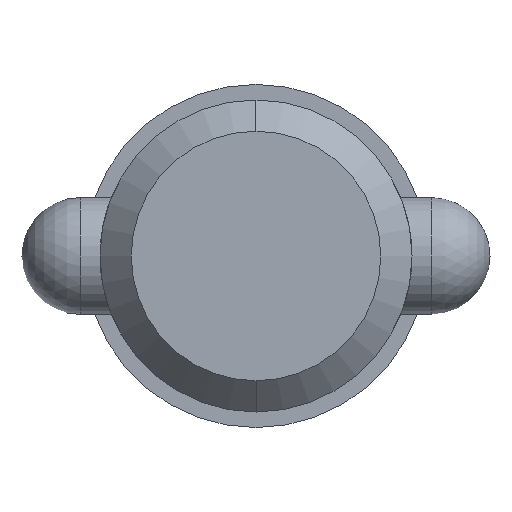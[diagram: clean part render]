
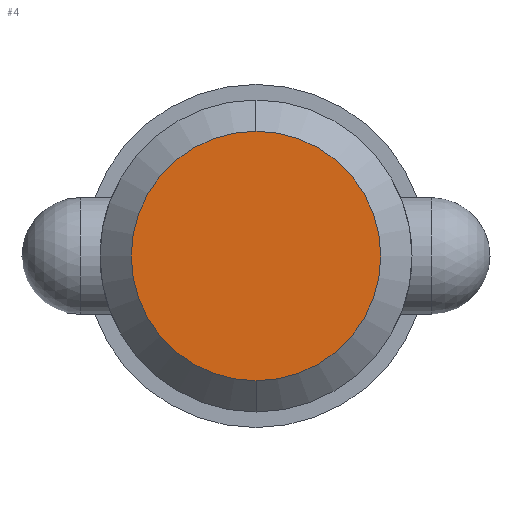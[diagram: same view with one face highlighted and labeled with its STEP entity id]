
A CAD part, left-side view. The second image highlights one B-rep face of the part: STEP entity #4.
In plain terms, the highlighted planar face has unit normal (-1, 0, 0).
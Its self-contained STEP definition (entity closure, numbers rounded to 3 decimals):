
#4 = ADVANCED_FACE ( 'NONE', ( #536 ), #1068, .T. ) ;
#21 = CIRCLE ( 'NONE', #198, 10.16 ) ;
#54 = AXIS2_PLACEMENT_3D ( 'NONE', #1041, #219, #611 ) ;
#141 = ORIENTED_EDGE ( 'NONE', *, *, #1070, .F. ) ;
#170 = AXIS2_PLACEMENT_3D ( 'NONE', #289, #877, #295 ) ;
#198 = AXIS2_PLACEMENT_3D ( 'NONE', #679, #607, #946 ) ;
#219 = DIRECTION ( 'NONE',  ( 1., 0., 0. ) ) ;
#289 = CARTESIAN_POINT ( 'NONE',  ( 0., 0., 0. ) ) ;
#295 = DIRECTION ( 'NONE',  ( 0., 0., 1. ) ) ;
#397 = VERTEX_POINT ( 'NONE', #994 ) ;
#536 = FACE_OUTER_BOUND ( 'NONE', #612, .T. ) ;
#607 = DIRECTION ( 'NONE',  ( 1., 0., 0. ) ) ;
#611 = DIRECTION ( 'NONE',  ( 0., 0., -1. ) ) ;
#612 = EDGE_LOOP ( 'NONE', ( #730, #141 ) ) ;
#626 = VERTEX_POINT ( 'NONE', #796 ) ;
#679 = CARTESIAN_POINT ( 'NONE',  ( 0., 0., 0. ) ) ;
#729 = EDGE_CURVE ( 'NONE', #397, #626, #1074, .T. ) ;
#730 = ORIENTED_EDGE ( 'NONE', *, *, #729, .F. ) ;
#796 = CARTESIAN_POINT ( 'NONE',  ( 0., 0., 10.16 ) ) ;
#877 = DIRECTION ( 'NONE',  ( -1., 0., 0. ) ) ;
#946 = DIRECTION ( 'NONE',  ( 0., 0., -1. ) ) ;
#994 = CARTESIAN_POINT ( 'NONE',  ( 0., 0., -10.16 ) ) ;
#1041 = CARTESIAN_POINT ( 'NONE',  ( 0., 0., 0. ) ) ;
#1068 = PLANE ( 'NONE',  #170 ) ;
#1070 = EDGE_CURVE ( 'NONE', #626, #397, #21, .T. ) ;
#1074 = CIRCLE ( 'NONE', #54, 10.16 ) ;
